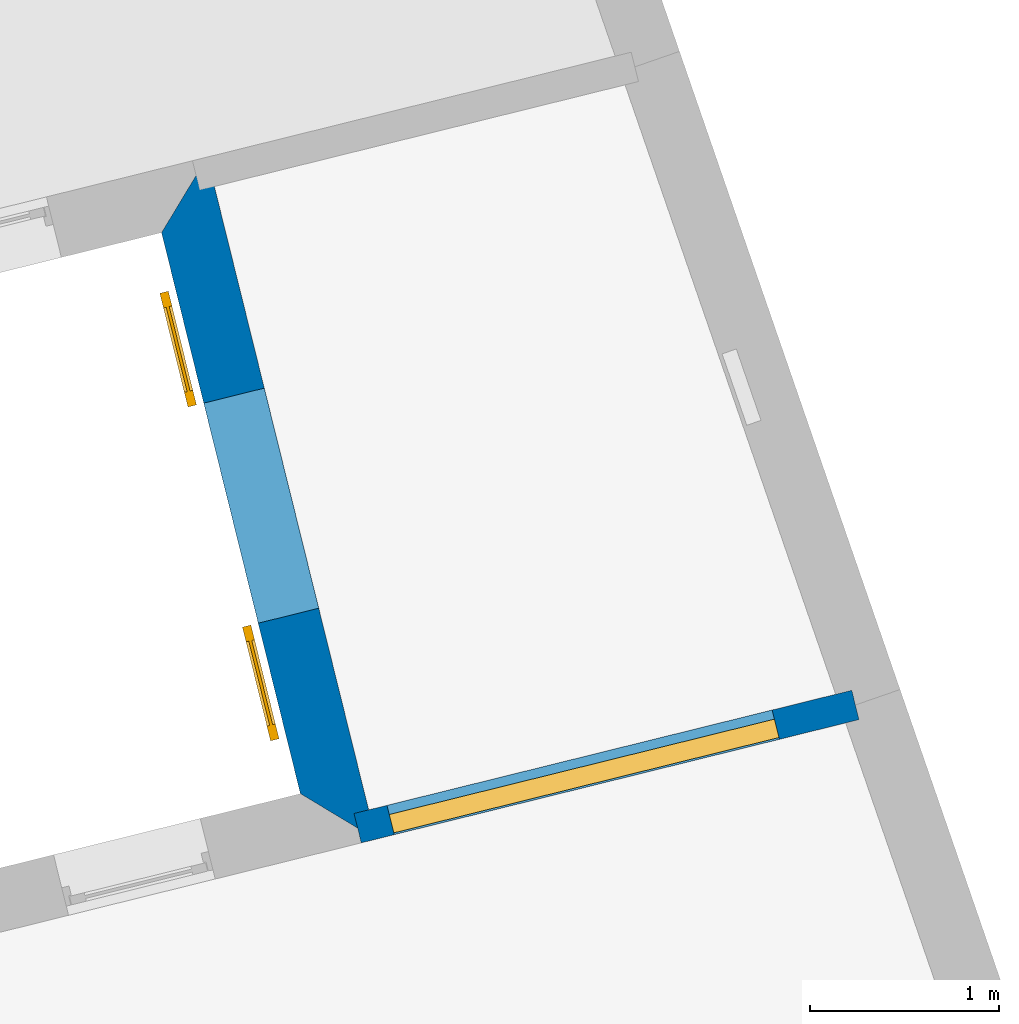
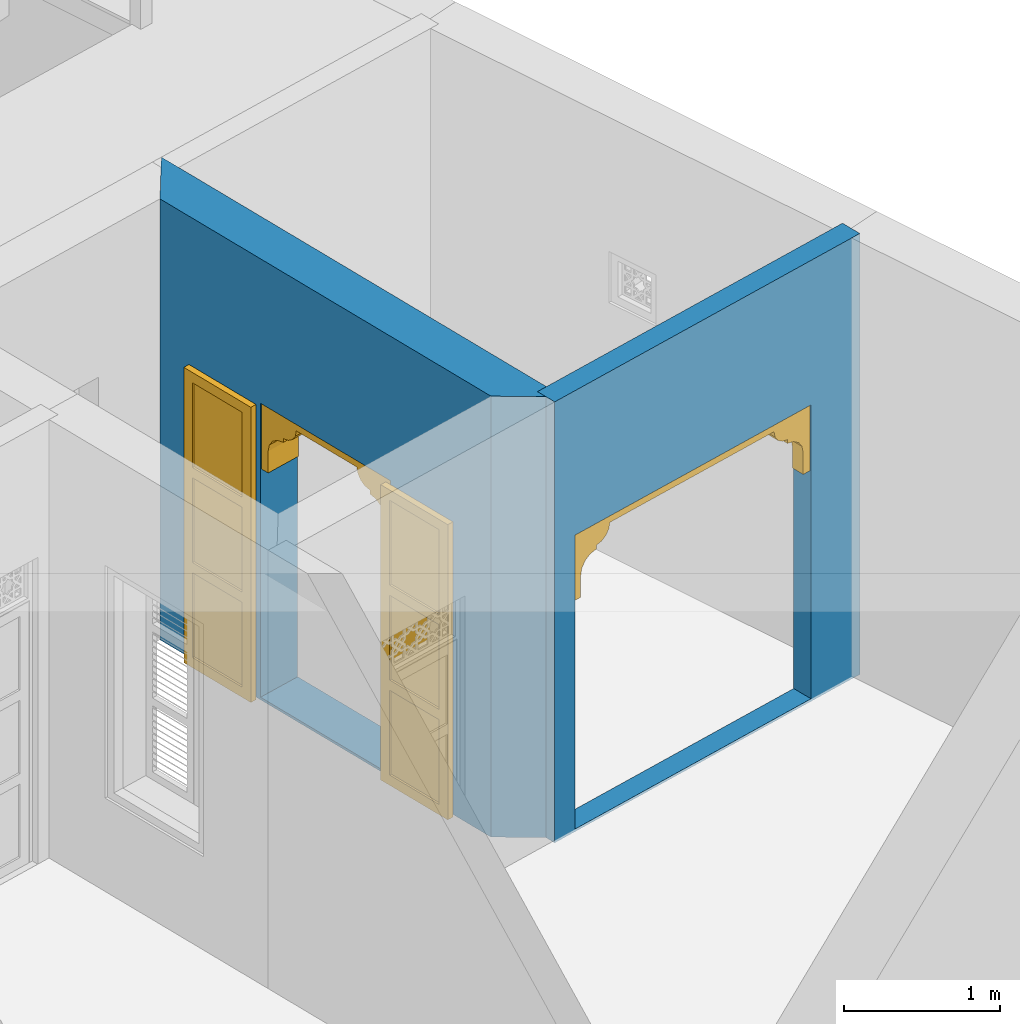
# One storey, part 6 of 10: 2 doors, 2 walls, 2 openings.
"""IFC4 building model written with IfcOpenShell, lengths in metres."""

from ifc_helpers import new_model, si_unit, frame, origin, origin_with_axes, place, context, subcontext, project, spatial, polyline, outline, extrude, faceted_brep, source, transform, mapped, material, layer, layer_set, layer_usage, type_object, type_shapes, element, fill, save


model = new_model("IFC4")

# Units and contexts
model_context = context("Model", 3, world=origin_with_axes())
body_context = subcontext(model_context, "Body", "Model", "MODEL_VIEW")
ifc_project = project(units=[si_unit("PLANEANGLEUNIT", "RADIAN"), si_unit("MASSUNIT", "GRAM", prefix="KILO"), si_unit("FORCEUNIT", "NEWTON", prefix="KILO"), si_unit("LENGTHUNIT", "METRE"), si_unit("AREAUNIT", "SQUARE_METRE"), si_unit("VOLUMEUNIT", "CUBIC_METRE")], contexts=[model_context, model_context])

# Site, building, storey
site_placement = place(None, origin_with_axes())
site = spatial("IfcSite", under=ifc_project, at=site_placement, Name="Site plot-5", CompositionType="ELEMENT")
building_placement = place(None, origin_with_axes())
building = spatial("IfcBuilding", under=site, at=building_placement, Name="Building plot-5", CompositionType="ELEMENT")
storey_placement = place(None, origin_with_axes())
storey = spatial("IfcBuildingStorey", under=building, at=storey_placement, Name="plot-5 0", CompositionType="ELEMENT", Elevation=0.0)

# Wall, opening, door
ifc_material_1 = material(Name="Masonry")
ifc_layer_1 = layer(ifc_material_1, 0.33, ventilated=False)
ifc_layer_set_1 = layer_set([ifc_layer_1], Name="exterior_0.08_0.25")
ifc_layer_usage_1 = layer_usage(ifc_layer_set_1, "AXIS2", "POSITIVE", -0.25)
wall_type_1 = type_object("IfcWallType", Name="exterior_0.08_0.25", PredefinedType="SOLIDWALL", material=ifc_layer_set_1)
wall_1_placement = place(storey_placement, frame((20.4610676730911, 28.0147411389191, 0.0), z_axis=(0.0, 0.0, 1.0), x_axis=(0.240250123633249, -0.970711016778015, 0.0)))
wall_1 = element("IfcWall", 1, at=wall_1_placement, inside=storey, type_object=wall_type_1, material=ifc_layer_usage_1, Name="exterior", context=body_context, shape_type="SweptSolid", body=[
    extrude(outline(polyline([(-0.0799999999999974, 0.0800000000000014), (0.249999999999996, -0.249999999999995), (3.30883659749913, -0.249999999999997), (3.63883659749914, 0.0800000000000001), (-0.0799999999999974, 0.0800000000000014)])), origin_with_axes(), (0.0, 0.0, 1.0), 3.45),
])
opening_1_placement = place(wall_1_placement, frame((1.17941829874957, 0.0, 0.02)))
opening_1 = element("IfcOpeningElement", 2, at=opening_1_placement, cuts=wall_1, Name="My Opening", ObjectType="Opening", context=body_context, shape_type="SweptSolid", body=[
    extrude(outline(polyline([(0.0, -0.270000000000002), (1.2, -0.269999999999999), (1.2, 1.1), (1.77635683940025e-15, 1.1), (0.0, -0.270000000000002)])), origin_with_axes(), (0.0, 0.0, 1.0), 2.3),
])
door_type_1 = type_object("IfcDoorType", Name="arch-1200x2300", OperationType="SINGLE_SWING_LEFT", PredefinedType="NOTDEFINED")
shared_shape_1 = source(origin(), body_context, "Body", "Brep", [
    faceted_brep([(-0.08, -0.02, 0.08), (-0.08, -0.02, 0.0), (-0.54, -0.02, 0.0), (-0.54, -0.02, 0.08), (-0.62, -0.02, 0.0), (-0.62, -0.02, 0.08), (-0.54, -0.035, 0.08), (-0.08, -0.035, 0.08), (0.0, -0.02, 0.08), (0.0, -0.02, 0.0), (-0.08, -0.066, 0.0), (-0.54, -0.066, 0.0), (-0.62, -0.066, 0.0), (-0.62, -0.066, 0.08), (-0.54, -0.02, 0.743333), (-0.62, -0.02, 0.743333), (-0.54, -0.035, 0.743333), (-0.08, -0.035, 0.743333), (-0.08, -0.02, 0.743333), (0.0, -0.02, 0.743333), (0.0, -0.066, 0.08), (0.0, -0.066, 0.0), (-0.54, -0.066, 0.08), (-0.08, -0.066, 0.08), (-0.62, -0.066, 0.743333), (-0.54, -0.02, 0.823333), (-0.62, -0.02, 0.823333), (0.0, -0.066, 0.743333), (0.0, -0.02, 0.823333), (-0.08, -0.02, 0.823333), (-0.08, -0.051, 0.08), (-0.54, -0.051, 0.08), (-0.54, -0.066, 0.743333), (-0.62, -0.066, 0.823333), (-0.54, -0.02, 1.486667), (-0.62, -0.02, 1.486667), (0.0, -0.066, 0.823333), (-0.08, -0.066, 0.743333), (0.0, -0.02, 1.486667), (-0.08, -0.02, 1.486667), (-0.08, -0.051, 0.743333), (-0.54, -0.051, 0.743333), (-0.54, -0.066, 0.823333), (-0.62, -0.066, 1.486667), (-0.54, -0.035, 0.823333), (-0.08, -0.035, 0.823333), (-0.54, -0.035, 1.486667), (-0.54, -0.02, 1.566667), (-0.62, -0.02, 1.566667), (0.0, -0.066, 1.486667), (-0.08, -0.066, 0.823333), (-0.08, -0.035, 1.486667), (0.0, -0.02, 1.566667), (-0.08, -0.02, 1.566667), (-0.54, -0.066, 1.486667), (-0.62, -0.066, 1.566667), (-0.54, -0.02, 2.23), (-0.62, -0.02, 2.23), (0.0, -0.066, 1.566667), (-0.08, -0.066, 1.486667), (0.0, -0.02, 2.23), (-0.08, -0.02, 2.23), (-0.08, -0.051, 0.823333), (-0.54, -0.051, 0.823333), (-0.54, -0.051, 1.486667), (-0.54, -0.066, 1.566667), (-0.62, -0.066, 2.23), (-0.54, -0.035, 1.566667), (-0.08, -0.035, 1.566667), (-0.54, -0.035, 2.23), (-0.54, -0.02, 2.31), (-0.62, -0.02, 2.31), (0.0, -0.066, 2.23), (-0.08, -0.066, 1.566667), (-0.08, -0.051, 1.486667), (-0.08, -0.035, 2.23), (0.0, -0.02, 2.31), (-0.08, -0.02, 2.31), (-0.54, -0.066, 2.23), (-0.62, -0.066, 2.31), (-0.54, -0.066, 2.31), (0.0, -0.066, 2.31), (-0.08, -0.066, 2.23), (-0.08, -0.066, 2.31), (-0.08, -0.051, 1.566667), (-0.54, -0.051, 1.566667), (-0.54, -0.051, 2.23), (-0.08, -0.051, 2.23), (1.74, -0.02, 0.08), (1.74, -0.02, 0.0), (1.28, -0.02, 0.0), (1.28, -0.02, 0.08), (1.82, -0.02, 0.08), (1.82, -0.02, 0.0), (1.28, -0.035, 0.08), (1.74, -0.035, 0.08), (1.2, -0.02, 0.0), (1.2, -0.02, 0.08), (1.74, -0.066, 0.0), (1.28, -0.066, 0.0), (1.82, -0.066, 0.08), (1.82, -0.066, 0.0), (1.82, -0.02, 0.743333), (1.74, -0.02, 0.743333), (1.74, -0.035, 0.743333), (1.28, -0.035, 0.743333), (1.28, -0.02, 0.743333), (1.2, -0.02, 0.743333), (1.2, -0.066, 0.0), (1.2, -0.066, 0.08), (1.28, -0.066, 0.08), (1.74, -0.066, 0.08), (1.82, -0.066, 0.743333), (1.82, -0.02, 0.823333), (1.74, -0.02, 0.823333), (1.2, -0.066, 0.743333), (1.28, -0.02, 0.823333), (1.2, -0.02, 0.823333), (1.74, -0.051, 0.08), (1.28, -0.051, 0.08), (1.74, -0.066, 0.743333), (1.82, -0.066, 0.823333), (1.82, -0.02, 1.486667), (1.74, -0.02, 1.486667), (1.2, -0.066, 0.823333), (1.28, -0.066, 0.743333), (1.28, -0.02, 1.486667), (1.2, -0.02, 1.486667), (1.28, -0.051, 0.743333), (1.74, -0.051, 0.743333), (1.74, -0.066, 0.823333), (1.82, -0.066, 1.486667), (1.28, -0.035, 0.823333), (1.74, -0.035, 0.823333), (1.74, -0.035, 1.486667), (1.82, -0.02, 1.566667), (1.74, -0.02, 1.566667), (1.2, -0.066, 1.486667), (1.28, -0.066, 0.823333), (1.28, -0.035, 1.486667), (1.28, -0.02, 1.566667), (1.2, -0.02, 1.566667), (1.74, -0.066, 1.486667), (1.82, -0.066, 1.566667), (1.82, -0.02, 2.23), (1.74, -0.02, 2.23), (1.2, -0.066, 1.566667), (1.28, -0.066, 1.486667), (1.28, -0.02, 2.23), (1.2, -0.02, 2.23), (1.74, -0.051, 0.823333), (1.28, -0.051, 0.823333), (1.74, -0.051, 1.486667), (1.74, -0.066, 1.566667), (1.82, -0.066, 2.23), (1.28, -0.035, 1.566667), (1.74, -0.035, 1.566667), (1.74, -0.035, 2.23), (1.82, -0.02, 2.31), (1.74, -0.02, 2.31), (1.2, -0.066, 2.23), (1.28, -0.066, 1.566667), (1.28, -0.051, 1.486667), (1.28, -0.035, 2.23), (1.28, -0.02, 2.31), (1.2, -0.02, 2.31), (1.74, -0.066, 2.23), (1.82, -0.066, 2.31), (1.74, -0.066, 2.31), (1.2, -0.066, 2.31), (1.28, -0.066, 2.23), (1.28, -0.066, 2.31), (1.74, -0.051, 1.566667), (1.28, -0.051, 1.566667), (1.74, -0.051, 2.23), (1.28, -0.051, 2.23), (1.2, 0.03, 1.78), (1.2, 0.03, 1.95), (1.14, 0.03, 1.95), (1.14, 0.03, 1.78), (1.14, 0.3, 1.95), (1.14, 0.3, 1.78), (1.2, 0.03, 2.12), (1.129, 0.03, 2.004), (1.2, 0.3, 1.78), (1.2, 0.3, 1.95), (1.129, 0.3, 2.004), (1.099, 0.03, 2.049), (1.2, 0.3, 2.12), (1.099, 0.3, 2.049), (1.054, 0.03, 2.079), (1.2, 0.3, 2.29), (1.2, 0.03, 2.29), (1.054, 0.3, 2.079), (1.0, 0.03, 2.09), (1.0, 0.03, 2.12), (0.954, 0.03, 2.129), (0.88, 0.3, 2.29), (0.88, 0.03, 2.29), (1.0, 0.3, 2.12), (0.954, 0.3, 2.129), (1.0, 0.3, 2.09), (0.915, 0.03, 2.155), (0.889, 0.3, 2.194), (0.88, 0.3, 2.24), (0.88, 0.03, 2.24), (0.889, 0.03, 2.194), (0.915, 0.3, 2.155), (0.06, 0.03, 1.78), (0.06, 0.03, 1.95), (0.0, 0.03, 1.95), (0.0, 0.03, 1.78), (0.06, 0.3, 1.78), (0.06, 0.3, 1.95), (0.071, 0.03, 2.004), (0.0, 0.03, 2.12), (0.0, 0.3, 1.95), (0.0, 0.3, 1.78), (0.071, 0.3, 2.004), (0.101, 0.03, 2.049), (0.0, 0.3, 2.12), (0.101, 0.3, 2.049), (0.146, 0.03, 2.079), (0.0, 0.03, 2.29), (0.0, 0.3, 2.29), (0.146, 0.3, 2.079), (0.2, 0.03, 2.12), (0.2, 0.03, 2.09), (0.246, 0.03, 2.129), (0.32, 0.03, 2.29), (0.32, 0.3, 2.29), (0.246, 0.3, 2.129), (0.2, 0.3, 2.12), (0.2, 0.3, 2.09), (0.285, 0.03, 2.155), (0.32, 0.3, 2.24), (0.311, 0.3, 2.194), (0.311, 0.03, 2.194), (0.32, 0.03, 2.24), (0.285, 0.3, 2.155)], [[[0, 1, 2, 3]], [[4, 5, 3, 2]], [[0, 3, 6, 7]], [[1, 0, 8, 9]], [[2, 1, 10, 11]], [[5, 4, 12, 13]], [[14, 3, 5, 15]], [[4, 2, 11, 12]], [[3, 14, 16, 6]], [[6, 16, 17, 7]], [[18, 0, 7, 17]], [[0, 18, 19, 8]], [[9, 8, 20, 21]], [[1, 9, 21, 10]], [[22, 11, 10, 23]], [[13, 12, 11, 22]], [[15, 5, 13, 24]], [[25, 14, 15, 26]], [[14, 18, 17, 16]], [[8, 19, 27, 20]], [[28, 19, 18, 29]], [[23, 10, 21, 20]], [[22, 23, 30, 31]], [[22, 32, 24, 13]], [[26, 15, 24, 33]], [[29, 18, 14, 25]], [[34, 25, 26, 35]], [[19, 28, 36, 27]], [[20, 27, 37, 23]], [[38, 28, 29, 39]], [[23, 37, 40, 30]], [[41, 31, 30, 40]], [[32, 22, 31, 41]], [[32, 42, 33, 24]], [[35, 26, 33, 43]], [[29, 25, 44, 45]], [[25, 34, 46, 44]], [[47, 34, 35, 48]], [[28, 38, 49, 36]], [[27, 36, 50, 37]], [[39, 29, 45, 51]], [[52, 38, 39, 53]], [[37, 32, 41, 40]], [[37, 50, 42, 32]], [[42, 54, 43, 33]], [[48, 35, 43, 55]], [[44, 46, 51, 45]], [[34, 39, 51, 46]], [[34, 47, 53, 39]], [[56, 47, 48, 57]], [[38, 52, 58, 49]], [[36, 49, 59, 50]], [[60, 52, 53, 61]], [[42, 50, 62, 63]], [[54, 42, 63, 64]], [[54, 65, 55, 43]], [[57, 48, 55, 66]], [[53, 47, 67, 68]], [[47, 56, 69, 67]], [[70, 56, 57, 71]], [[52, 60, 72, 58]], [[49, 58, 73, 59]], [[50, 59, 74, 62]], [[61, 53, 68, 75]], [[76, 60, 61, 77]], [[64, 63, 62, 74]], [[59, 54, 64, 74]], [[65, 54, 59, 73]], [[65, 78, 66, 55]], [[71, 57, 66, 79]], [[67, 69, 75, 68]], [[56, 61, 75, 69]], [[77, 61, 56, 70]], [[70, 71, 79, 80]], [[60, 76, 81, 72]], [[58, 72, 82, 73]], [[76, 77, 83, 81]], [[65, 73, 84, 85]], [[78, 65, 85, 86]], [[78, 80, 79, 66]], [[77, 70, 80, 83]], [[72, 81, 83, 82]], [[73, 82, 87, 84]], [[86, 85, 84, 87]], [[82, 78, 86, 87]], [[82, 83, 80, 78]], [[88, 89, 90, 91]], [[89, 88, 92, 93]], [[94, 95, 88, 91]], [[96, 97, 91, 90]], [[98, 99, 90, 89]], [[100, 101, 93, 92]], [[102, 92, 88, 103]], [[101, 98, 89, 93]], [[95, 104, 103, 88]], [[94, 105, 104, 95]], [[105, 94, 91, 106]], [[97, 107, 106, 91]], [[108, 109, 97, 96]], [[99, 108, 96, 90]], [[110, 99, 98, 111]], [[111, 98, 101, 100]], [[112, 100, 92, 102]], [[113, 102, 103, 114]], [[104, 105, 106, 103]], [[109, 115, 107, 97]], [[116, 106, 107, 117]], [[109, 108, 99, 110]], [[118, 119, 110, 111]], [[100, 112, 120, 111]], [[121, 112, 102, 113]], [[114, 103, 106, 116]], [[122, 113, 114, 123]], [[115, 124, 117, 107]], [[110, 125, 115, 109]], [[126, 116, 117, 127]], [[119, 128, 125, 110]], [[128, 119, 118, 129]], [[129, 118, 111, 120]], [[112, 121, 130, 120]], [[131, 121, 113, 122]], [[132, 133, 114, 116]], [[133, 134, 123, 114]], [[135, 122, 123, 136]], [[124, 137, 127, 117]], [[125, 138, 124, 115]], [[139, 132, 116, 126]], [[140, 126, 127, 141]], [[128, 129, 120, 125]], [[120, 130, 138, 125]], [[121, 131, 142, 130]], [[143, 131, 122, 135]], [[132, 139, 134, 133]], [[134, 139, 126, 123]], [[126, 140, 136, 123]], [[144, 135, 136, 145]], [[137, 146, 141, 127]], [[138, 147, 137, 124]], [[148, 140, 141, 149]], [[150, 151, 138, 130]], [[152, 150, 130, 142]], [[131, 143, 153, 142]], [[154, 143, 135, 144]], [[155, 156, 136, 140]], [[156, 157, 145, 136]], [[158, 144, 145, 159]], [[146, 160, 149, 141]], [[147, 161, 146, 137]], [[151, 162, 147, 138]], [[163, 155, 140, 148]], [[164, 148, 149, 165]], [[162, 151, 150, 152]], [[162, 152, 142, 147]], [[161, 147, 142, 153]], [[143, 154, 166, 153]], [[167, 154, 144, 158]], [[155, 163, 157, 156]], [[157, 163, 148, 145]], [[159, 145, 148, 164]], [[168, 167, 158, 159]], [[160, 169, 165, 149]], [[161, 170, 160, 146]], [[169, 171, 164, 165]], [[172, 173, 161, 153]], [[174, 172, 153, 166]], [[154, 167, 168, 166]], [[171, 168, 159, 164]], [[170, 171, 169, 160]], [[173, 175, 170, 161]], [[175, 173, 172, 174]], [[175, 174, 166, 170]], [[166, 168, 171, 170]], [[176, 177, 178, 179]], [[180, 181, 179, 178]], [[177, 182, 183, 178]], [[177, 176, 184, 185]], [[181, 184, 176, 179]], [[181, 180, 185, 184]], [[186, 180, 178, 183]], [[182, 187, 183]], [[182, 177, 185, 188]], [[180, 186, 188, 185]], [[189, 186, 183, 187]], [[182, 190, 187]], [[188, 191, 192, 182]], [[188, 186, 189]], [[193, 189, 187, 190]], [[194, 190, 182, 195]], [[182, 192, 196, 195]], [[192, 191, 197, 198]], [[199, 200, 191, 188]], [[188, 189, 193]], [[201, 193, 190, 194]], [[199, 201, 194, 195]], [[200, 199, 195, 196]], [[192, 202, 196]], [[191, 203, 204, 197]], [[192, 198, 205, 206]], [[207, 191, 200]], [[199, 188, 193, 201]], [[207, 200, 196, 202]], [[192, 206, 202]], [[204, 203, 206, 205]], [[203, 191, 207]], [[203, 207, 202, 206]], [[208, 209, 210, 211]], [[209, 208, 212, 213]], [[209, 214, 215, 210]], [[211, 210, 216, 217]], [[208, 211, 217, 212]], [[217, 216, 213, 212]], [[214, 209, 213, 218]], [[214, 219, 215]], [[220, 216, 210, 215]], [[216, 220, 218, 213]], [[219, 214, 218, 221]], [[219, 222, 215]], [[215, 223, 224, 220]], [[221, 218, 220]], [[222, 219, 221, 225]], [[226, 215, 222, 227]], [[226, 228, 223, 215]], [[229, 230, 224, 223]], [[220, 224, 231, 232]], [[225, 221, 220]], [[227, 222, 225, 233]], [[226, 227, 233, 232]], [[228, 226, 232, 231]], [[228, 234, 223]], [[230, 235, 236, 224]], [[237, 238, 229, 223]], [[231, 224, 239]], [[233, 225, 220, 232]], [[234, 228, 231, 239]], [[234, 237, 223]], [[238, 237, 236, 235]], [[239, 224, 236]], [[237, 234, 239, 236]], [[238, 235, 204, 205]], [[235, 230, 197, 204]], [[229, 238, 205, 198]], [[230, 229, 198, 197]]]),
])
type_shapes(door_type_1, [shared_shape_1])
door_1_placement = place(storey_placement, frame((20.4823310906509, 26.8049992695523, 0.02), z_axis=(0.0, 0.0, 1.0), x_axis=(0.288300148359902, -1.16485322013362, 0.0)))
door_1 = element("IfcDoor", 3, at=door_1_placement, inside=storey, type_object=door_type_1, Name="kitchen sahn door", OverallHeight=2.3, OverallWidth=1.2, context=body_context, shape_type="MappedRepresentation", body=[
    mapped(shared_shape_1, transform((0.0, 0.0, 0.0), scale=1.0)),
])
fill(opening_1, door_1)

ifc_material_2 = material(Name="Masonry")
ifc_layer_2 = layer(ifc_material_2, 0.16, ventilated=False)
ifc_layer_set_2 = layer_set([ifc_layer_2], Name="interior_0.08_0.08")
ifc_layer_usage_2 = layer_usage(ifc_layer_set_2, "AXIS2", "POSITIVE", -0.08)
wall_type_2 = type_object("IfcWallType", Name="interior_0.08_0.08", PredefinedType="SOLIDWALL", material=ifc_layer_set_2)
wall_2_placement = place(storey_placement, frame((21.3160786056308, 24.5601392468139, 0.0), z_axis=(0.0, 0.0, 1.0), x_axis=(0.970711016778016, 0.240250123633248, 0.0)))
wall_2 = element("IfcWall", 4, at=wall_2_placement, inside=storey, type_object=wall_type_2, material=ifc_layer_usage_2, Name="interior", context=body_context, shape_type="SweptSolid", body=[
    extrude(outline(polyline([(5.91096344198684e-16, 0.0800000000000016), (-5.81299169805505e-16, -0.0800000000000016), (2.71405591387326, -0.0800000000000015), (2.71405591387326, 0.0800000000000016), (5.91096344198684e-16, 0.0800000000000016)])), origin_with_axes(), (0.0, 0.0, 1.0), 3.45),
])
opening_2_placement = place(wall_2_placement, frame((0.179999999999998, 0.0, 0.02)))
opening_2 = element("IfcOpeningElement", 5, at=opening_2_placement, cuts=wall_2, Name="My Opening", ObjectType="Opening", context=body_context, shape_type="SweptSolid", body=[
    extrude(outline(polyline([(0.0, -0.1), (2.1, -0.0999999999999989), (2.1, 1.1), (-4.71844785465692e-16, 1.1), (0.0, -0.1)])), origin_with_axes(), (0.0, 0.0, 1.0), 2.3),
])
door_type_2 = type_object("IfcDoorType", Name="arch-2100x2300-thin", OperationType="SINGLE_SWING_LEFT", PredefinedType="NOTDEFINED")
shared_shape_2 = source(origin(), body_context, "Body", "Brep", [
    faceted_brep([(2.1, 0.03, 1.78), (2.1, 0.03, 1.95), (2.04, 0.03, 1.95), (2.04, 0.03, 1.78), (2.04, 0.13, 1.95), (2.04, 0.13, 1.78), (2.1, 0.03, 2.12), (2.029, 0.03, 2.004), (2.1, 0.13, 1.78), (2.1, 0.13, 1.95), (2.029, 0.13, 2.004), (1.999, 0.03, 2.049), (2.1, 0.13, 2.12), (1.999, 0.13, 2.049), (1.954, 0.03, 2.079), (2.1, 0.13, 2.29), (2.1, 0.03, 2.29), (1.954, 0.13, 2.079), (1.9, 0.03, 2.09), (1.9, 0.03, 2.12), (1.854, 0.03, 2.129), (1.78, 0.13, 2.29), (1.78, 0.03, 2.29), (1.9, 0.13, 2.12), (1.854, 0.13, 2.129), (1.9, 0.13, 2.09), (1.815, 0.03, 2.155), (1.789, 0.13, 2.194), (1.78, 0.13, 2.24), (1.78, 0.03, 2.24), (1.789, 0.03, 2.194), (1.815, 0.13, 2.155), (0.06, 0.03, 1.78), (0.06, 0.03, 1.95), (0.0, 0.03, 1.95), (0.0, 0.03, 1.78), (0.06, 0.13, 1.78), (0.06, 0.13, 1.95), (0.071, 0.03, 2.004), (0.0, 0.03, 2.12), (0.0, 0.13, 1.95), (0.0, 0.13, 1.78), (0.071, 0.13, 2.004), (0.101, 0.03, 2.049), (0.0, 0.13, 2.12), (0.101, 0.13, 2.049), (0.146, 0.03, 2.079), (0.0, 0.03, 2.29), (0.0, 0.13, 2.29), (0.146, 0.13, 2.079), (0.2, 0.03, 2.12), (0.2, 0.03, 2.09), (0.246, 0.03, 2.129), (0.32, 0.03, 2.29), (0.32, 0.13, 2.29), (0.246, 0.13, 2.129), (0.2, 0.13, 2.12), (0.2, 0.13, 2.09), (0.285, 0.03, 2.155), (0.32, 0.13, 2.24), (0.311, 0.13, 2.194), (0.311, 0.03, 2.194), (0.32, 0.03, 2.24), (0.285, 0.13, 2.155)], [[[0, 1, 2, 3]], [[4, 5, 3, 2]], [[1, 6, 7, 2]], [[1, 0, 8, 9]], [[5, 8, 0, 3]], [[5, 4, 9, 8]], [[10, 4, 2, 7]], [[6, 11, 7]], [[6, 1, 9, 12]], [[4, 10, 12, 9]], [[13, 10, 7, 11]], [[6, 14, 11]], [[12, 15, 16, 6]], [[12, 10, 13]], [[17, 13, 11, 14]], [[18, 14, 6, 19]], [[6, 16, 20, 19]], [[16, 15, 21, 22]], [[23, 24, 15, 12]], [[12, 13, 17]], [[25, 17, 14, 18]], [[23, 25, 18, 19]], [[24, 23, 19, 20]], [[16, 26, 20]], [[15, 27, 28, 21]], [[16, 22, 29, 30]], [[31, 15, 24]], [[23, 12, 17, 25]], [[31, 24, 20, 26]], [[16, 30, 26]], [[28, 27, 30, 29]], [[27, 15, 31]], [[27, 31, 26, 30]], [[32, 33, 34, 35]], [[33, 32, 36, 37]], [[33, 38, 39, 34]], [[35, 34, 40, 41]], [[32, 35, 41, 36]], [[41, 40, 37, 36]], [[38, 33, 37, 42]], [[38, 43, 39]], [[44, 40, 34, 39]], [[40, 44, 42, 37]], [[43, 38, 42, 45]], [[43, 46, 39]], [[39, 47, 48, 44]], [[45, 42, 44]], [[46, 43, 45, 49]], [[50, 39, 46, 51]], [[50, 52, 47, 39]], [[53, 54, 48, 47]], [[44, 48, 55, 56]], [[49, 45, 44]], [[51, 46, 49, 57]], [[50, 51, 57, 56]], [[52, 50, 56, 55]], [[52, 58, 47]], [[54, 59, 60, 48]], [[61, 62, 53, 47]], [[55, 48, 63]], [[57, 49, 44, 56]], [[58, 52, 55, 63]], [[58, 61, 47]], [[62, 61, 60, 59]], [[63, 48, 60]], [[61, 58, 63, 60]], [[62, 59, 28, 29]], [[59, 54, 21, 28]], [[53, 62, 29, 22]], [[54, 53, 22, 21]]]),
])
type_shapes(door_type_2, [shared_shape_2])
door_2_placement = place(storey_placement, frame((21.5148316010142, 24.5063131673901, 0.02), z_axis=(0.0, 0.0, 1.0), x_axis=(2.03849313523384, 0.504525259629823, 0.0)))
door_2 = element("IfcDoor", 6, at=door_2_placement, inside=storey, type_object=door_type_2, Name="kitchen living inside door", OverallHeight=2.3, OverallWidth=2.1, context=body_context, shape_type="MappedRepresentation", body=[
    mapped(shared_shape_2, transform((0.0, 0.0, 0.0), scale=1.0)),
])
fill(opening_2, door_2)

save(model, "model.ifc")
